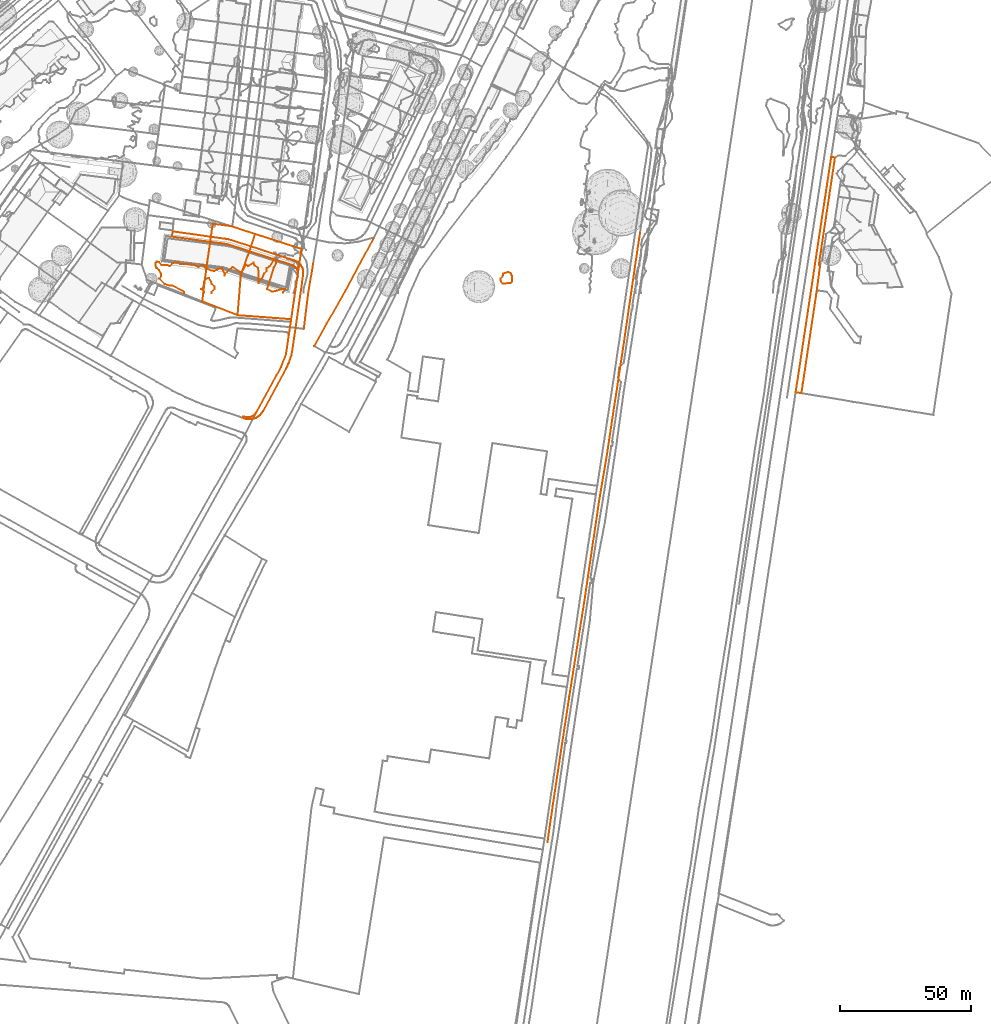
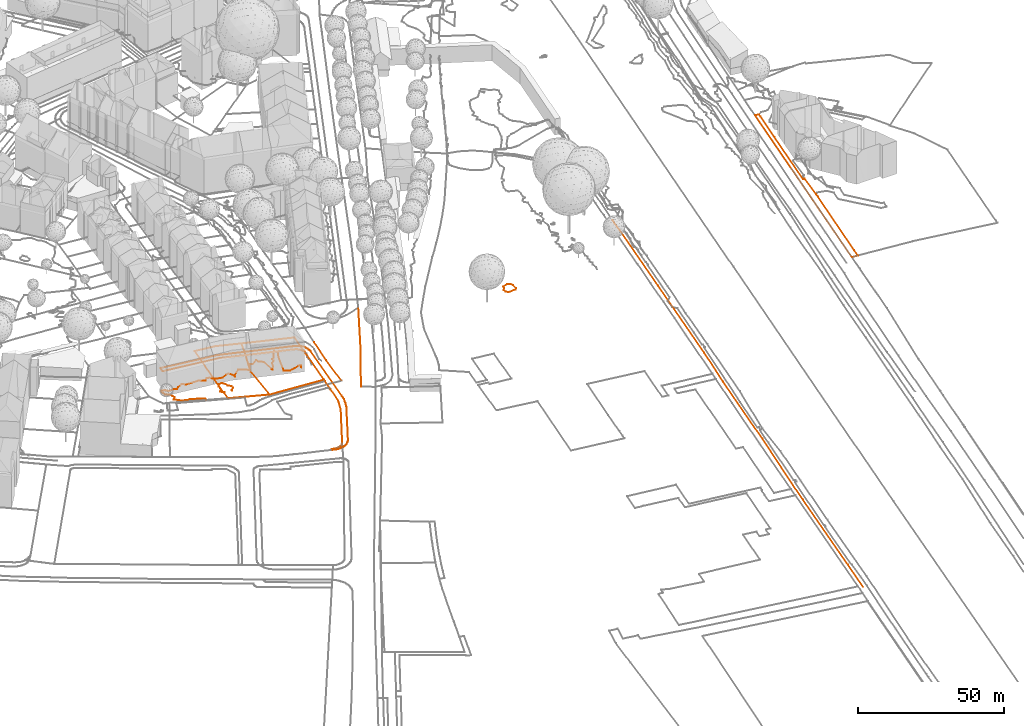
# Not in any storey, part 124 of 494: 10 proxies.
"""IFC2X3 model written with IfcOpenShell, lengths in metres."""

from ifc_helpers import new_model, entity, si_unit, frame, origin_with_axes, place, context, subcontext, project, element, save


model = new_model("IFC2X3")

# Units and contexts
model_context = context("Model", 3, precision=1e-05, world=origin_with_axes())
body_context = subcontext(model_context, "Body", "Model", "MODEL_VIEW")
ifc_project = project(units=[si_unit("AREAUNIT", "SQUARE_METRE"), si_unit("LENGTHUNIT", "METRE")], contexts=[model_context])

# Proxies
proxy_1_placement = place(None, frame((568.6837320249, -210.7802504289, 502.245), z_axis=(0.0, 0.0, 1.0), x_axis=(1.0, 0.0, 0.0)))
element("IfcBuildingElementProxy", 1, at=proxy_1_placement, Name="Road 115", ObjectType="NOTDEFINED", context=body_context, shape_type="GeometricCurveSet", body=[
    entity("IfcGeometricCurveSet", [entity("IfcPolyline", [entity("IfcCartesianPoint", [0.0, 0.0, 0.0]), entity("IfcCartesianPoint", [2.0179999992, 14.025999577, 0.154]), entity("IfcCartesianPoint", [8.333000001, 55.7299983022, -0.285]), entity("IfcCartesianPoint", [14.3530000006, 93.7619971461, -0.006]), entity("IfcCartesianPoint", [19.638999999, 129.8859960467, 0.001]), entity("IfcCartesianPoint", [22.7229999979, 148.0949954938, 0.165]), entity("IfcCartesianPoint", [29.1840000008, 190.8269941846, -0.209]), entity("IfcCartesianPoint", [35.0579999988, 230.9149929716, -0.136]), entity("IfcCartesianPoint", [35.2850000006, 232.4229929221, -0.136])])]),
])
proxy_2_placement = place(None, frame((479.832732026, -21.4962561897, 502.279), z_axis=(0.0, 0.0, 1.0), x_axis=(1.0, 0.0, 0.0)))
element("IfcBuildingElementProxy", 2, at=proxy_2_placement, Name="Road 119", ObjectType="NOTDEFINED", context=body_context, shape_type="GeometricCurveSet", body=[
    entity("IfcGeometricCurveSet", [entity("IfcPolyline", [entity("IfcCartesianPoint", [22.7479999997, 41.4179987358, -0.256]), entity("IfcCartesianPoint", [11.8949999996, 21.1459993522, 0.017]), entity("IfcCartesianPoint", [4.6989999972, 8.5169997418, -0.009]), entity("IfcCartesianPoint", [0.0, 0.0, 0.0])])]),
])
proxy_3_placement = place(None, frame((475.8237320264, -14.9482563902, 502.105), z_axis=(0.0, 0.0, 1.0), x_axis=(1.0, 0.0, 0.0)))
element("IfcBuildingElementProxy", 3, at=proxy_3_placement, Name="Road 133", ObjectType="NOTDEFINED", context=body_context, shape_type="GeometricCurveSet", body=[
    entity("IfcGeometricCurveSet", [entity("IfcPolyline", [entity("IfcCartesianPoint", [0.0, 0.0, 0.0]), entity("IfcCartesianPoint", [1.6600000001, 13.4229995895, -0.152]), entity("IfcCartesianPoint", [3.5689999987, 24.9549992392, -0.184])])]),
])
proxy_4_placement = place(None, frame((425.5947320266, 20.1757160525, 502.3531348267), z_axis=(0.0, 0.0, 1.0), x_axis=(1.0, 0.0, 0.0)))
element("IfcBuildingElementProxy", 4, at=proxy_4_placement, Name="Roads Outline 105", ObjectType="NOTDEFINED", context=body_context, shape_type="GeometricCurveSet", body=[
    entity("IfcGeometricCurveSet", [entity("IfcPolyline", [entity("IfcCartesianPoint", [0.0, 0.0, 0.0]), entity("IfcCartesianPoint", [0.216, 2.0119999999, 0.0179441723]), entity("IfcCartesianPoint", [20.2690000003, -0.7880000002, -0.0792583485]), entity("IfcCartesianPoint", [20.6230000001, -0.8390000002, -0.0957378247]), entity("IfcCartesianPoint", [20.9750000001, -0.9000000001, -0.1115795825]), entity("IfcCartesianPoint", [21.3310000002, -0.973, -0.1261259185]), entity("IfcCartesianPoint", [21.6850000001, -1.057, -0.1368588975]), entity("IfcCartesianPoint", [45.4560000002, -8.6540000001, -0.3558693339]), entity("IfcCartesianPoint", [45.8910000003, -8.8, -0.3616100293]), entity("IfcCartesianPoint", [46.3230000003, -8.9530000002, -0.3635631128]), entity("IfcCartesianPoint", [46.9880000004, -9.2050000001, -0.3619636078]), entity("IfcCartesianPoint", [47.6460000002, -9.4740000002, -0.3750334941]), entity("IfcCartesianPoint", [47.9100000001, -9.6060000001, -0.385340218]), entity("IfcCartesianPoint", [48.162, -9.76, -0.3957228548]), entity("IfcCartesianPoint", [48.3630000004, -9.9060000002, -0.4041590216]), entity("IfcCartesianPoint", [48.5530000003, -10.0660000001, -0.412324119]), entity("IfcCartesianPoint", [48.5690000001, -10.084, -0.4129831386]), entity("IfcCartesianPoint", [48.923, -10.5190000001, -0.4038688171]), entity("IfcCartesianPoint", [49.2320000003, -10.9870000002, -0.402665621]), entity("IfcCartesianPoint", [49.4930000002, -11.483, -0.4109163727]), entity("IfcCartesianPoint", [49.7040000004, -12.0020000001, -0.4239549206]), entity("IfcCartesianPoint", [49.8630000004, -12.54, -0.4298864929]), entity("IfcCartesianPoint", [49.9750000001, -13.1510000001, -0.4282862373]), entity("IfcCartesianPoint", [50.02, -13.77, -0.4233631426]), entity("IfcCartesianPoint", [49.997, -14.3900000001, -0.4119629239]), entity("IfcCartesianPoint", [45.9480000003, -42.7070000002, -0.3576572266]), entity("IfcCartesianPoint", [45.7460000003, -43.878, -0.3514556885]), entity("IfcCartesianPoint", [45.4880000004, -45.037, -0.344761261]), entity("IfcCartesianPoint", [45.1920000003, -46.1300000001, -0.3394949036]), entity("IfcCartesianPoint", [44.8460000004, -47.2080000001, -0.3333389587]), entity("IfcCartesianPoint", [44.5819999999, -47.8870000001, -0.3286463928]), entity("IfcCartesianPoint", [44.2990000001, -48.5580000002, -0.3248722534]), entity("IfcCartesianPoint", [43.9110000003, -49.3990000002, -0.3196978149]), entity("IfcCartesianPoint", [43.4920000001, -50.2240000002, -0.315481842]), entity("IfcCartesianPoint", [34.7439999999, -66.3770000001, -0.4494364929]), entity("IfcCartesianPoint", [34.412, -66.9370000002, -0.4510124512]), entity("IfcCartesianPoint", [34.0210000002, -67.4570000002, -0.4471224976]), entity("IfcCartesianPoint", [33.574, -67.9310000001, -0.4429459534]), entity("IfcCartesianPoint", [33.0780000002, -68.3530000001, -0.452921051]), entity("IfcCartesianPoint", [32.5390000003, -68.7170000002, -0.464461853]), entity("IfcCartesianPoint", [31.9620000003, -69.02, -0.4852576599]), entity("IfcCartesianPoint", [31.3560000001, -69.257, -0.4918096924]), entity("IfcCartesianPoint", [31.1070000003, -69.3330000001, -0.4840132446]), entity("IfcCartesianPoint", [30.855, -69.3970000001, -0.4761228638]), entity("IfcCartesianPoint", [30.2239999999, -69.5090000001, -0.4650206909]), entity("IfcCartesianPoint", [29.585, -69.5510000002, -0.4604185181]), entity("IfcCartesianPoint", [28.9450000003, -69.523, -0.4526744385]), entity("IfcCartesianPoint", [28.3120000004, -69.4260000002, -0.4491652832]), entity("IfcCartesianPoint", [27.693, -69.2610000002, -0.4511676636]), entity("IfcCartesianPoint", [26.977, -69.017, -0.4227473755]), entity("IfcCartesianPoint", [27.1470000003, -68.4670000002, -0.4308198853]), entity("IfcCartesianPoint", [27.9270000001, -68.7070000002, -0.4504107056]), entity("IfcCartesianPoint", [28.4010000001, -68.7950000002, -0.4488773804]), entity("IfcCartesianPoint", [28.8810000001, -68.8330000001, -0.4518990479]), entity("IfcCartesianPoint", [29.3620000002, -68.8180000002, -0.457726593]), entity("IfcCartesianPoint", [29.8390000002, -68.753, -0.4622478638]), entity("IfcCartesianPoint", [30.307, -68.6370000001, -0.4656184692]), entity("IfcCartesianPoint", [30.7350000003, -68.4110000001, -0.4723655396]), entity("IfcCartesianPoint", [31.1330000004, -68.1340000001, -0.4848273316]), entity("IfcCartesianPoint", [31.4939999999, -67.811, -0.4961306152]), entity("IfcCartesianPoint", [31.8140000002, -67.4470000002, -0.4905917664]), entity("IfcCartesianPoint", [32.0870000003, -67.047, -0.4807525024]), entity("IfcCartesianPoint", [39.8370000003, -52.797, -0.4080157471]), entity("IfcCartesianPoint", [41.5270000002, -49.6870000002, -0.3711780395]), entity("IfcCartesianPoint", [43.4580000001, -44.6970000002, -0.3155409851]), entity("IfcCartesianPoint", [44.4980000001, -37.6970000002, -0.3275261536]), entity("IfcCartesianPoint", [45.2710000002, -32.4470000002, -0.3409004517]), entity("IfcCartesianPoint", [45.4190000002, -31.4470000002, -0.3435336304]), entity("IfcCartesianPoint", [47.9580000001, -14.1260000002, -0.3843107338]), entity("IfcCartesianPoint", [47.986, -13.6660000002, -0.3952968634]), entity("IfcCartesianPoint", [47.9370000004, -13.2080000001, -0.3933745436]), entity("IfcCartesianPoint", [47.8110000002, -12.7640000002, -0.3853844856]), entity("IfcCartesianPoint", [47.6120000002, -12.348, -0.3765818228]), entity("IfcCartesianPoint", [47.3460000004, -11.9720000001, -0.3680501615]), entity("IfcCartesianPoint", [46.9530000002, -11.564, -0.3592411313]), entity("IfcCartesianPoint", [46.5060000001, -11.216, -0.3383705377]), entity("IfcCartesianPoint", [46.0150000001, -10.9340000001, -0.331852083]), entity("IfcCartesianPoint", [45.4890000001, -10.723, -0.3351811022]), entity("IfcCartesianPoint", [29.4560000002, -5.5560000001, -0.2514919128]), entity("IfcCartesianPoint", [20.8620000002, -2.7860000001, -0.1431336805]), entity("IfcCartesianPoint", [14.5630000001, -1.9670000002, -0.079976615]), entity("IfcCartesianPoint", [0.0, 0.0, 0.0])])]),
])
proxy_5_placement = place(None, frame((663.3037320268, -39.1152839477, 502.6944244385), z_axis=(0.0, 0.0, 1.0), x_axis=(1.0, 0.0, 0.0)))
element("IfcBuildingElementProxy", 5, at=proxy_5_placement, Name="Roads Outline 109", ObjectType="NOTDEFINED", context=body_context, shape_type="GeometricCurveSet", body=[
    entity("IfcGeometricCurveSet", [entity("IfcPolyline", [entity("IfcCartesianPoint", [0.0, 0.0, 0.0]), entity("IfcCartesianPoint", [13.5439999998, 89.6980000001, 0.0473368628]), entity("IfcCartesianPoint", [14.9669999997, 89.483, 0.038663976]), entity("IfcCartesianPoint", [14.7549999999, 87.9000000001, 0.0702691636]), entity("IfcCartesianPoint", [12.841, 75.1810000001, -0.0234521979]), entity("IfcCartesianPoint", [8.8589999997, 48.6950000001, 0.0097926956]), entity("IfcCartesianPoint", [9.1749999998, 48.2950000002, 0.0225422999]), entity("IfcCartesianPoint", [9.3489999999, 48.4370000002, 0.0313423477]), entity("IfcCartesianPoint", [7.9750000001, 38.2370000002, 0.3508599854]), entity("IfcCartesianPoint", [7.7420000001, 36.662, 0.299588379]), entity("IfcCartesianPoint", [2.7229999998, 3.1810000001, 0.0666755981]), entity("IfcCartesianPoint", [2.1939999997, -0.318, 0.0638665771]), entity("IfcCartesianPoint", [2.1069999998, -0.3489999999, 0.063404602]), entity("IfcCartesianPoint", [0.0, 0.0, 0.0])])]),
])
proxy_6_placement = place(None, frame((437.1067320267, -4.4812839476, 501.9895917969), z_axis=(0.0, 0.0, 1.0), x_axis=(1.0, 0.0, 0.0)))
element("IfcBuildingElementProxy", 6, at=proxy_6_placement, Name="Cadastre 161", ObjectType="NOTDEFINED", context=body_context, shape_type="GeometricCurveSet", body=[
    entity("IfcGeometricCurveSet", [entity("IfcPolyline", [entity("IfcCartesianPoint", [0.0, 0.0, 0.0]), entity("IfcCartesianPoint", [1.6409999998, 13.1400000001, 0.0469457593]), entity("IfcCartesianPoint", [3.051, 22.6899999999, 0.2835664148]), entity("IfcCartesianPoint", [3.9819999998, 29.6000000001, 0.3172305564]), entity("IfcCartesianPoint", [10.8110000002, 28.71, 0.3478100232]), entity("IfcCartesianPoint", [11.5010000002, 28.49, 0.4104794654]), entity("IfcCartesianPoint", [20.1800000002, 25.6799999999, 0.2295655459]), entity("IfcCartesianPoint", [17.9300000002, 19.0600000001, 0.1111383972]), entity("IfcCartesianPoint", [14.719, 10.0800000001, -0.0463897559]), entity("IfcCartesianPoint", [13.4780000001, -5.26, 0.0255452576]), entity("IfcCartesianPoint", [0.0, 0.0, 0.0])])]),
])
proxy_7_placement = place(None, frame((450.5847320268, -9.7412839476, 502.0151370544), z_axis=(0.0, 0.0, 1.0), x_axis=(1.0, 0.0, 0.0)))
element("IfcBuildingElementProxy", 7, at=proxy_7_placement, Name="Cadastre 162", ObjectType="NOTDEFINED", context=body_context, shape_type="GeometricCurveSet", body=[
    entity("IfcGeometricCurveSet", [entity("IfcPolyline", [entity("IfcCartesianPoint", [0.0, 0.0, 0.0]), entity("IfcCartesianPoint", [1.2409999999, 15.3400000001, -0.0719350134]), entity("IfcCartesianPoint", [4.452, 24.3200000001, 0.0855931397]), entity("IfcCartesianPoint", [6.702, 30.9399999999, 0.2040202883]), entity("IfcCartesianPoint", [24.3500000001, 25.22, -0.0090621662]), entity("IfcCartesianPoint", [20.429, -1.53, -0.0055358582]), entity("IfcCartesianPoint", [0.0, 0.0, 0.0])])]),
])
proxy_8_placement = place(None, frame((550.7903274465, 4.1707160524, 502.0), z_axis=(0.0, 0.0, 1.0), x_axis=(1.0, 0.0, 0.0)))
element("IfcBuildingElementProxy", 8, at=proxy_8_placement, Name="Contour Line 502.0 m", ObjectType="NOTDEFINED", context=body_context, shape_type="GeometricCurveSet", body=[
    entity("IfcGeometricCurveSet", [entity("IfcPolyline", [entity("IfcCartesianPoint", [4.3487464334, -1.0, 0.0]), entity("IfcCartesianPoint", [3.8874045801, -1.624567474, 0.0]), entity("IfcCartesianPoint", [0.8874045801, -1.8645948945, 0.0]), entity("IfcCartesianPoint", [0.1723976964, -1.0, 0.0]), entity("IfcCartesianPoint", [0.0, 0.0, 0.0]), entity("IfcCartesianPoint", [0.8917713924, 1.0, 0.0]), entity("IfcCartesianPoint", [1.0739873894, 2.0, 0.0]), entity("IfcCartesianPoint", [2.8874045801, 2.580736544, 0.0]), entity("IfcCartesianPoint", [4.0425894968, 2.0, 0.0]), entity("IfcCartesianPoint", [4.3814977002, 1.0, 0.0]), entity("IfcCartesianPoint", [4.3487464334, -1.0, 0.0])])]),
])
proxy_9_placement = place(None, frame((436.7353136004, 0.1707160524, 502.0), z_axis=(0.0, 0.0, 1.0), x_axis=(1.0, 0.0, 0.0)))
element("IfcBuildingElementProxy", 9, at=proxy_9_placement, Name="Contour Line 502.0 m", ObjectType="NOTDEFINED", context=body_context, shape_type="GeometricCurveSet", body=[
    entity("IfcGeometricCurveSet", [entity("IfcPolyline", [entity("IfcCartesianPoint", [1.0951402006, -1.5, 0.0]), entity("IfcCartesianPoint", [1.0951402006, -1.0, 0.0]), entity("IfcCartesianPoint", [0.0, 0.0, 0.0]), entity("IfcCartesianPoint", [0.8246299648, 1.0, 0.0]), entity("IfcCartesianPoint", [1.1032699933, 2.0, 0.0]), entity("IfcCartesianPoint", [1.0033643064, 3.0, 0.0]), entity("IfcCartesianPoint", [1.9424184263, 4.0394614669, 0.0]), entity("IfcCartesianPoint", [2.9424184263, 4.3169877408, 0.0]), entity("IfcCartesianPoint", [3.7888821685, 3.0, 0.0]), entity("IfcCartesianPoint", [3.9480206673, 2.0, 0.0]), entity("IfcCartesianPoint", [5.0932520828, 1.0, 0.0]), entity("IfcCartesianPoint", [5.0093033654, 0.0, 0.0]), entity("IfcCartesianPoint", [3.8606002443, -1.0, 0.0]), entity("IfcCartesianPoint", [3.8606002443, -1.5, 0.0])])]),
])
proxy_10_placement = place(None, frame((419.3698819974, 9.1707160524, 502.0), z_axis=(0.0, 0.0, 1.0), x_axis=(1.0, 0.0, 0.0)))
element("IfcBuildingElementProxy", 10, at=proxy_10_placement, Name="Contour Line 502.0 m", ObjectType="NOTDEFINED", context=body_context, shape_type="GeometricCurveSet", body=[
    entity("IfcGeometricCurveSet", [entity("IfcPolyline", [entity("IfcCartesianPoint", [48.6013347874, -10.5, 0.0]), entity("IfcCartesianPoint", [48.6013347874, -10.0, 0.0]), entity("IfcCartesianPoint", [49.2974796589, -9.0, 0.0]), entity("IfcCartesianPoint", [48.3078500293, -8.760830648, 0.0]), entity("IfcCartesianPoint", [46.3078500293, -9.5408822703, 0.0]), entity("IfcCartesianPoint", [44.3078500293, -9.9264264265, 0.0]), entity("IfcCartesianPoint", [42.4322536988, -9.0, 0.0]), entity("IfcCartesianPoint", [44.9647180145, -1.0, 0.0]), entity("IfcCartesianPoint", [45.8710429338, 1.0, 0.0]), entity("IfcCartesianPoint", [45.9053254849, 2.0, 0.0]), entity("IfcCartesianPoint", [45.3078500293, 2.755319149, 0.0]), entity("IfcCartesianPoint", [43.3078500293, -0.4592198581, 0.0]), entity("IfcCartesianPoint", [42.3635775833, -1.0, 0.0]), entity("IfcCartesianPoint", [42.3476290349, -2.0, 0.0]), entity("IfcCartesianPoint", [41.2711329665, -3.0, 0.0]), entity("IfcCartesianPoint", [40.5150743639, -5.0, 0.0]), entity("IfcCartesianPoint", [39.3187286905, -6.0, 0.0]), entity("IfcCartesianPoint", [39.3078500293, -6.5652173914, 0.0]), entity("IfcCartesianPoint", [39.0990215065, -1.0, 0.0]), entity("IfcCartesianPoint", [37.6908287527, 0.0, 0.0]), entity("IfcCartesianPoint", [37.3078500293, 1.1542130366, 0.0]), entity("IfcCartesianPoint", [35.3078500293, -0.1521739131, 0.0]), entity("IfcCartesianPoint", [34.3078500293, 0.3542553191, 0.0]), entity("IfcCartesianPoint", [33.3078500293, -1.5217853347, 0.0]), entity("IfcCartesianPoint", [32.3078500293, -2.5790476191, 0.0]), entity("IfcCartesianPoint", [29.3078500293, -0.5482233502, 0.0]), entity("IfcCartesianPoint", [26.4104587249, -3.0, 0.0]), entity("IfcCartesianPoint", [26.3078500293, -3.7866666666, 0.0]), entity("IfcCartesianPoint", [26.2633553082, -3.0, 0.0]), entity("IfcCartesianPoint", [25.3078500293, -0.988410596, 0.0]), entity("IfcCartesianPoint", [24.3078500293, -1.0917532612, 0.0]), entity("IfcCartesianPoint", [22.3078500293, -2.0170283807, 0.0]), entity("IfcCartesianPoint", [21.3078500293, -1.9472132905, 0.0]), entity("IfcCartesianPoint", [19.0096716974, -1.0, 0.0]), entity("IfcCartesianPoint", [18.3078500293, 0.1128404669, 0.0]), entity("IfcCartesianPoint", [17.3078500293, 0.4297713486, 0.0]), entity("IfcCartesianPoint", [16.3078500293, -0.6127893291, 0.0]), entity("IfcCartesianPoint", [14.3078500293, 0.4304235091, 0.0]), entity("IfcCartesianPoint", [9.3078500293, 0.6007497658, 0.0]), entity("IfcCartesianPoint", [8.3078500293, 1.6269393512, 0.0]), entity("IfcCartesianPoint", [6.3078500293, 0.7155232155, 0.0]), entity("IfcCartesianPoint", [5.3078500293, -0.2254947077, 0.0]), entity("IfcCartesianPoint", [4.3078500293, 0.2415094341, 0.0]), entity("IfcCartesianPoint", [2.3078500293, 0.2742340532, 0.0]), entity("IfcCartesianPoint", [1.3078500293, 1.3107088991, 0.0]), entity("IfcCartesianPoint", [0.3078500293, 1.5186766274, 0.0]), entity("IfcCartesianPoint", [0.0033387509, 1.0, 0.0]), entity("IfcCartesianPoint", [0.0, 0.0, 0.0]), entity("IfcCartesianPoint", [0.3078500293, -0.9325643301, 0.0]), entity("IfcCartesianPoint", [1.3078500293, -1.7244691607, 0.0]), entity("IfcCartesianPoint", [1.9949665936, -3.0, 0.0]), entity("IfcCartesianPoint", [2.1371913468, -4.0, 0.0]), entity("IfcCartesianPoint", [1.3242973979, -5.0, 0.0]), entity("IfcCartesianPoint", [3.3359112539, -7.0, 0.0]), entity("IfcCartesianPoint", [5.3078500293, -7.6316355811, 0.0]), entity("IfcCartesianPoint", [6.3078500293, -7.5403244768, 0.0]), entity("IfcCartesianPoint", [10.8503749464, -10.0, 0.0]), entity("IfcCartesianPoint", [10.8503749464, -10.5, 0.0])])]),
])

save(model, "model.ifc")
